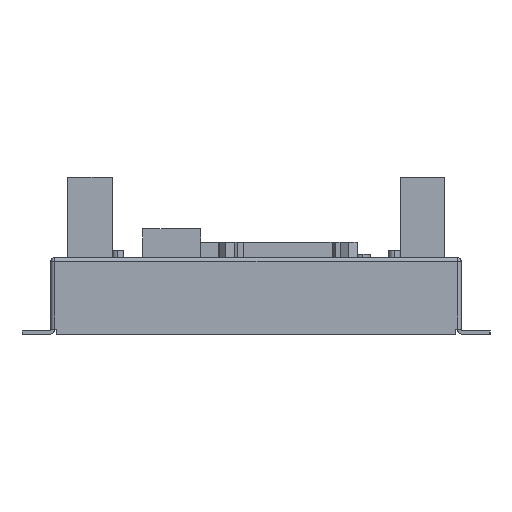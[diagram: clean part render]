
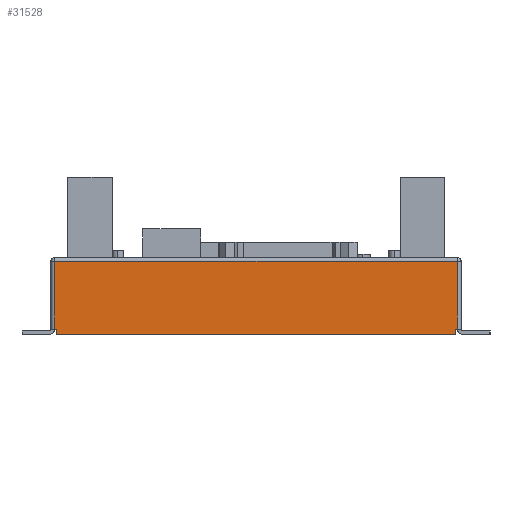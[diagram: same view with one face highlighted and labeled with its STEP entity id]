
A CAD part, left-side view. The second image highlights one B-rep face of the part: STEP entity #31528.
In plain terms, the highlighted planar face has unit normal (-1, 0, 0).
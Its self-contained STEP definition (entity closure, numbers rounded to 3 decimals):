
#1447 = CARTESIAN_POINT ( 'NONE',  ( -110., -55.19, -21.3 ) ) ;
#1916 = CARTESIAN_POINT ( 'NONE',  ( -110., 55.31, -21.3 ) ) ;
#2856 = VECTOR ( 'NONE', #21783, 1000. ) ;
#3035 = CARTESIAN_POINT ( 'NONE',  ( -110., 0., -19.8 ) ) ;
#3282 = EDGE_CURVE ( 'NONE', #7464, #14484, #34039, .T. ) ;
#3556 = ORIENTED_EDGE ( 'NONE', *, *, #27367, .T. ) ;
#3651 = VERTEX_POINT ( 'NONE', #1916 ) ;
#3826 = DIRECTION ( 'NONE',  ( 0., -1., 0. ) ) ;
#4280 = CARTESIAN_POINT ( 'NONE',  ( -110., -56.25, -21.3 ) ) ;
#4424 = DIRECTION ( 'NONE',  ( 0., 0., 1. ) ) ;
#5072 = EDGE_CURVE ( 'NONE', #7464, #22612, #13325, .T. ) ;
#6109 = DIRECTION ( 'NONE',  ( 0., 0., -1. ) ) ;
#6511 = CARTESIAN_POINT ( 'NONE',  ( -110., 56.4, -1. ) ) ;
#7107 = CARTESIAN_POINT ( 'NONE',  ( -110., -55.69, -1. ) ) ;
#7237 = ORIENTED_EDGE ( 'NONE', *, *, #5072, .F. ) ;
#7464 = VERTEX_POINT ( 'NONE', #20226 ) ;
#8004 = VERTEX_POINT ( 'NONE', #30739 ) ;
#8719 = PLANE ( 'NONE',  #19733 ) ;
#8829 = DIRECTION ( 'NONE',  ( 0., 0., 1. ) ) ;
#9102 = CARTESIAN_POINT ( 'NONE',  ( -110., 55.31, -19.8 ) ) ;
#9634 = ORIENTED_EDGE ( 'NONE', *, *, #22837, .F. ) ;
#9920 = LINE ( 'NONE', #24871, #30475 ) ;
#11112 = VECTOR ( 'NONE', #4424, 1000. ) ;
#11943 = LINE ( 'NONE', #7107, #11112 ) ;
#11994 = ORIENTED_EDGE ( 'NONE', *, *, #3282, .T. ) ;
#12345 = ORIENTED_EDGE ( 'NONE', *, *, #32042, .F. ) ;
#12497 = FACE_OUTER_BOUND ( 'NONE', #34339, .T. ) ;
#12767 = VECTOR ( 'NONE', #6109, 1000. ) ;
#13259 = LINE ( 'NONE', #4280, #20380 ) ;
#13325 = LINE ( 'NONE', #6511, #26755 ) ;
#13438 = DIRECTION ( 'NONE',  ( 0., 0., -1. ) ) ;
#13992 = VERTEX_POINT ( 'NONE', #24538 ) ;
#14484 = VERTEX_POINT ( 'NONE', #26867 ) ;
#15593 = ORIENTED_EDGE ( 'NONE', *, *, #32398, .T. ) ;
#15848 = VERTEX_POINT ( 'NONE', #1447 ) ;
#16238 = CARTESIAN_POINT ( 'NONE',  ( -110., 55.81, -1. ) ) ;
#16293 = VECTOR ( 'NONE', #24272, 1000. ) ;
#16884 = CARTESIAN_POINT ( 'NONE',  ( -110., 55.31, -1. ) ) ;
#18070 = EDGE_CURVE ( 'NONE', #15848, #8004, #23426, .T. ) ;
#19733 = AXIS2_PLACEMENT_3D ( 'NONE', #27516, #24919, #8829 ) ;
#20226 = CARTESIAN_POINT ( 'NONE',  ( -110., 55.81, -1. ) ) ;
#20380 = VECTOR ( 'NONE', #23023, 1000. ) ;
#20700 = LINE ( 'NONE', #16884, #12767 ) ;
#21592 = CARTESIAN_POINT ( 'NONE',  ( -110., -55.19, -1. ) ) ;
#21783 = DIRECTION ( 'NONE',  ( 0., 1., 0. ) ) ;
#22442 = ORIENTED_EDGE ( 'NONE', *, *, #25463, .T. ) ;
#22612 = VERTEX_POINT ( 'NONE', #28738 ) ;
#22837 = EDGE_CURVE ( 'NONE', #13992, #8004, #32230, .T. ) ;
#23023 = DIRECTION ( 'NONE',  ( 0., -1., 0. ) ) ;
#23426 = LINE ( 'NONE', #21592, #16293 ) ;
#24272 = DIRECTION ( 'NONE',  ( 0., 0., 1. ) ) ;
#24538 = CARTESIAN_POINT ( 'NONE',  ( -110., -55.69, -19.8 ) ) ;
#24871 = CARTESIAN_POINT ( 'NONE',  ( -110., 0., -19.8 ) ) ;
#24919 = DIRECTION ( 'NONE',  ( -1., 0., 0. ) ) ;
#25213 = VECTOR ( 'NONE', #13438, 1000. ) ;
#25463 = EDGE_CURVE ( 'NONE', #13992, #22612, #11943, .T. ) ;
#26755 = VECTOR ( 'NONE', #3826, 1000. ) ;
#26867 = CARTESIAN_POINT ( 'NONE',  ( -110., 55.81, -19.8 ) ) ;
#26906 = VERTEX_POINT ( 'NONE', #9102 ) ;
#27367 = EDGE_CURVE ( 'NONE', #26906, #3651, #20700, .T. ) ;
#27516 = CARTESIAN_POINT ( 'NONE',  ( -110., -56.25, -1. ) ) ;
#27592 = DIRECTION ( 'NONE',  ( 0., 1., 0. ) ) ;
#28029 = ORIENTED_EDGE ( 'NONE', *, *, #18070, .T. ) ;
#28738 = CARTESIAN_POINT ( 'NONE',  ( -110., -55.69, -1. ) ) ;
#30475 = VECTOR ( 'NONE', #27592, 1000. ) ;
#30739 = CARTESIAN_POINT ( 'NONE',  ( -110., -55.19, -19.8 ) ) ;
#31528 = ADVANCED_FACE ( 'NONE', ( #12497 ), #8719, .T. ) ;
#32042 = EDGE_CURVE ( 'NONE', #26906, #14484, #9920, .T. ) ;
#32230 = LINE ( 'NONE', #3035, #2856 ) ;
#32398 = EDGE_CURVE ( 'NONE', #3651, #15848, #13259, .T. ) ;
#34039 = LINE ( 'NONE', #16238, #25213 ) ;
#34339 = EDGE_LOOP ( 'NONE', ( #28029, #9634, #22442, #7237, #11994, #12345, #3556, #15593 ) ) ;
